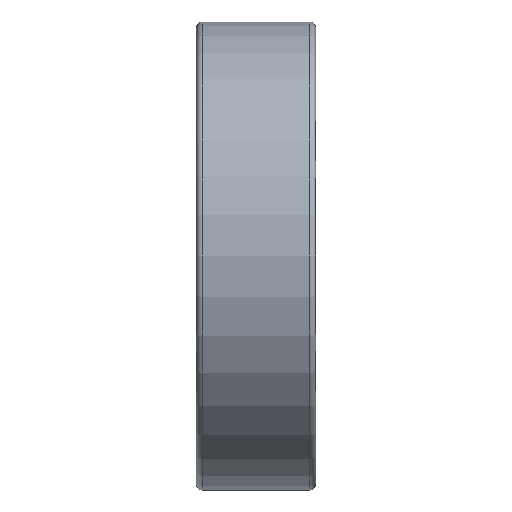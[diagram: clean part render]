
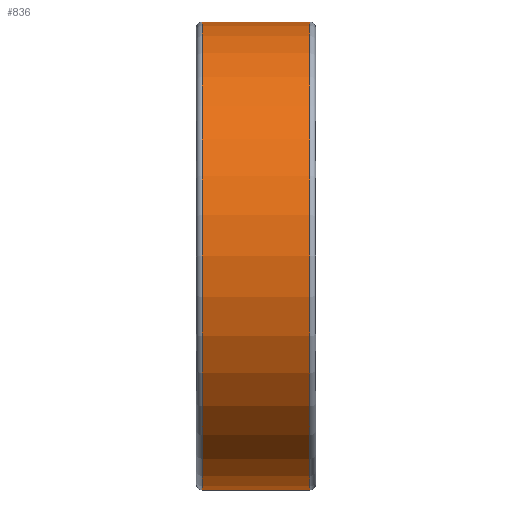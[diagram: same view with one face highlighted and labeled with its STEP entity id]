
A CAD part, front view. The second image highlights one B-rep face of the part: STEP entity #836.
In plain terms, the highlighted cylindrical face has radius 23.5 mm (diameter 47 mm), a full revolution.
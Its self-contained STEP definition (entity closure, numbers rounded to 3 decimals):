
#46=LINE('',#1607,#52);
#52=VECTOR('',#1310,23.5);
#58=CYLINDRICAL_SURFACE('',#1013,23.5);
#140=FACE_OUTER_BOUND('',#208,.T.);
#208=EDGE_LOOP('',(#746,#747,#748,#749,#750,#751));
#314=CIRCLE('',#1008,23.5);
#315=CIRCLE('',#1009,23.5);
#318=CIRCLE('',#1014,23.5);
#319=CIRCLE('',#1015,23.5);
#440=VERTEX_POINT('',#1595);
#441=VERTEX_POINT('',#1596);
#443=VERTEX_POINT('',#1604);
#444=VERTEX_POINT('',#1605);
#545=EDGE_CURVE('',#440,#441,#314,.T.);
#546=EDGE_CURVE('',#441,#440,#315,.T.);
#549=EDGE_CURVE('',#443,#444,#318,.T.);
#550=EDGE_CURVE('',#443,#441,#46,.T.);
#551=EDGE_CURVE('',#444,#443,#319,.T.);
#746=ORIENTED_EDGE('',*,*,#549,.F.);
#747=ORIENTED_EDGE('',*,*,#550,.T.);
#748=ORIENTED_EDGE('',*,*,#545,.F.);
#749=ORIENTED_EDGE('',*,*,#546,.F.);
#750=ORIENTED_EDGE('',*,*,#550,.F.);
#751=ORIENTED_EDGE('',*,*,#551,.F.);
#836=ADVANCED_FACE('',(#140),#58,.T.);
#1008=AXIS2_PLACEMENT_3D('',#1597,#1296,#1297);
#1009=AXIS2_PLACEMENT_3D('',#1598,#1298,#1299);
#1013=AXIS2_PLACEMENT_3D('',#1603,#1306,#1307);
#1014=AXIS2_PLACEMENT_3D('',#1606,#1308,#1309);
#1015=AXIS2_PLACEMENT_3D('',#1608,#1311,#1312);
#1296=DIRECTION('center_axis',(-1.,0.,0.));
#1297=DIRECTION('ref_axis',(0.,-1.,0.));
#1298=DIRECTION('center_axis',(-1.,0.,0.));
#1299=DIRECTION('ref_axis',(0.,-1.,0.));
#1306=DIRECTION('center_axis',(1.,0.,0.));
#1307=DIRECTION('ref_axis',(0.,1.,0.));
#1308=DIRECTION('center_axis',(1.,0.,0.));
#1309=DIRECTION('ref_axis',(0.,-1.,0.));
#1310=DIRECTION('',(-1.,0.,0.));
#1311=DIRECTION('center_axis',(1.,0.,0.));
#1312=DIRECTION('ref_axis',(0.,-1.,0.));
#1595=CARTESIAN_POINT('',(0.6,0.,23.5));
#1596=CARTESIAN_POINT('',(0.6,-23.5,0.));
#1597=CARTESIAN_POINT('Origin',(0.6,0.,0.));
#1598=CARTESIAN_POINT('Origin',(0.6,0.,0.));
#1603=CARTESIAN_POINT('Origin',(6.,0.,0.));
#1604=CARTESIAN_POINT('',(11.4,-23.5,0.));
#1605=CARTESIAN_POINT('',(11.4,0.,23.5));
#1606=CARTESIAN_POINT('Origin',(11.4,0.,0.));
#1607=CARTESIAN_POINT('',(6.,-23.5,0.));
#1608=CARTESIAN_POINT('Origin',(11.4,0.,0.));
